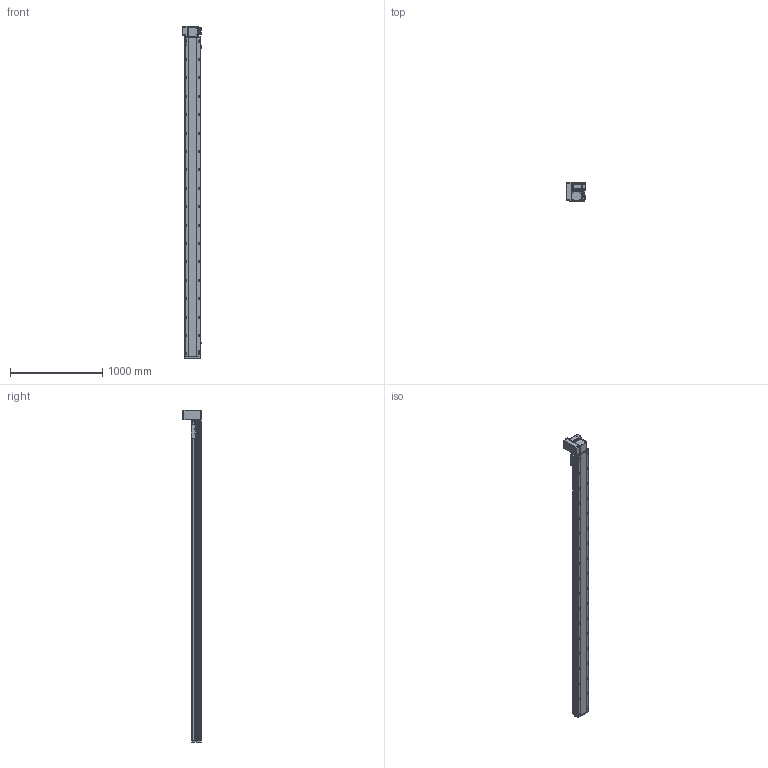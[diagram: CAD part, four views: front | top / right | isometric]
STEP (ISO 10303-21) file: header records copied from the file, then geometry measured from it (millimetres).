
FILE_DESCRIPTION (( 'STEP AP214' ), '1' );
FILE_NAME ('RTB17S-XX-3200-LW-M75-C4.STEP', '2025-12-12T01:21:19', ( '' ), ( '' ), 'SwSTEP 2.0', 'SolidWorks 2018', '' );
FILE_SCHEMA (( 'AUTOMOTIVE_DESIGN' ));
Length unit declared in the file: millimetre
Products named in the file (15): EE672^RTB17S-XX-XX-LW-M75-C4; RTB17S-LW-々湍釱蚾饜-750W^RTB17S-XX-XX-LW-M75-C4; RTH13-BL-012覜茼え俋离^RTB17S-賑釱_RTB17S-XX-XX-LW-M75-C4; RTB17S-XX-3200-LW-M75-C4; RTB22S-GY-008-M75--萇儂啣^RTB17S-LW-々湍釱蚾饜-750W_RTB17S-XX-XX-LW-M75-C4; RTB17S-L-001-耜醱啣^RTB17S-XX-XX-LW-M75-C4; RTB22S-GY-017P^RTB17S-LW-々湍釱蚾饜-750W_RTB17S-XX-XX-LW-M75-C4; RTB17-R-011菁釱^RTB17S-XX-XX-LW-M75-C4; RTB17S-L-014-T20-P75--々湍釱^RTB17S-LW-々湍釱蚾饜-750W_RTB17S-XX-XX-LW-M75-C4; RTB17S-L-004-賑釱^RTB17S-賑釱_RTB17S-XX-XX-LW-M75-C4; RTB17S-賑釱^RTB17S-XX-XX-LW-M75-C4; RTB22S-GY-018P^RTB17S-LW-々湍釱蚾饜-750W_RTB17S-XX-XX-LW-M75-C4; RTB22S-GY-005P^RTB17S-LW-々湍釱蚾饜-750W_RTB17S-XX-XX-LW-M75-C4; 750W萇儂^RTB17S-XX-XX-LW-M75-C4; RTB17S-L-007奻裔^RTB17S-XX-XX-LW-M75-C4
Assembly tree (17 placements, depth 3):
  RTB17S-XX-3200-LW-M75-C4
    RTB17-R-011菁釱^RTB17S-XX-XX-LW-M75-C4
    EE672^RTB17S-XX-XX-LW-M75-C4  x3
    RTB17S-L-001-耜醱啣^RTB17S-XX-XX-LW-M75-C4
    RTB17S-賑釱^RTB17S-XX-XX-LW-M75-C4
      RTB17S-L-004-賑釱^RTB17S-賑釱_RTB17S-XX-XX-LW-M75-C4
      RTH13-BL-012覜茼え俋离^RTB17S-賑釱_RTB17S-XX-XX-LW-M75-C4
    RTB17S-L-007奻裔^RTB17S-XX-XX-LW-M75-C4
    750W萇儂^RTB17S-XX-XX-LW-M75-C4
    RTB17S-LW-々湍釱蚾饜-750W^RTB17S-XX-XX-LW-M75-C4
      RTB17S-L-014-T20-P75--々湍釱^RTB17S-LW-々湍釱蚾饜-750W_RTB17S-XX-XX-LW-M75-C4
      RTB22S-GY-005P^RTB17S-LW-々湍釱蚾饜-750W_RTB17S-XX-XX-LW-M75-C4
      RTB22S-GY-017P^RTB17S-LW-々湍釱蚾饜-750W_RTB17S-XX-XX-LW-M75-C4  x2
      RTB22S-GY-008-M75--萇儂啣^RTB17S-LW-々湍釱蚾饜-750W_RTB17S-XX-XX-LW-M75-C4
      RTB22S-GY-018P^RTB17S-LW-々湍釱蚾饜-750W_RTB17S-XX-XX-LW-M75-C4
Bounding box: 210.4 x 201.5 x 3607.5 mm (x, y, z)
Volume: 25956309.7 mm3; surface area: 4772344 mm2
Topology: 17 solids, 17 shells, 2265 faces, 6376 edges, 4130 vertices
Faces by surface type: plane 992, cylinder 857, bspline 294, cone 110, sphere 8, torus 4
Entity records: 66550 total; most frequent: CARTESIAN_POINT 19840, ORIENTED_EDGE 9596, DIRECTION 8852, EDGE_CURVE 4798, AXIS2_PLACEMENT_3D 3150, VERTEX_POINT 3134, LINE 2552, VECTOR 2552
